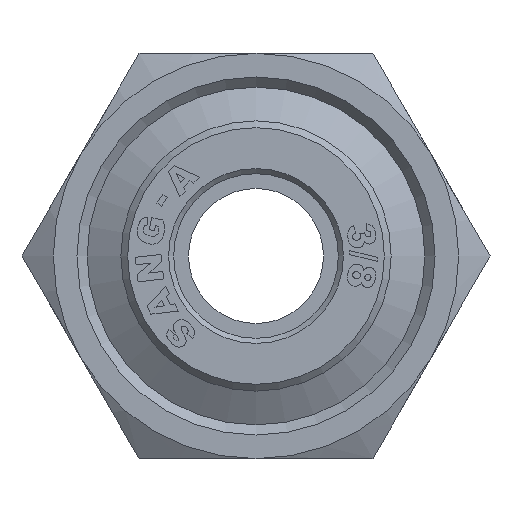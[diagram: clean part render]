
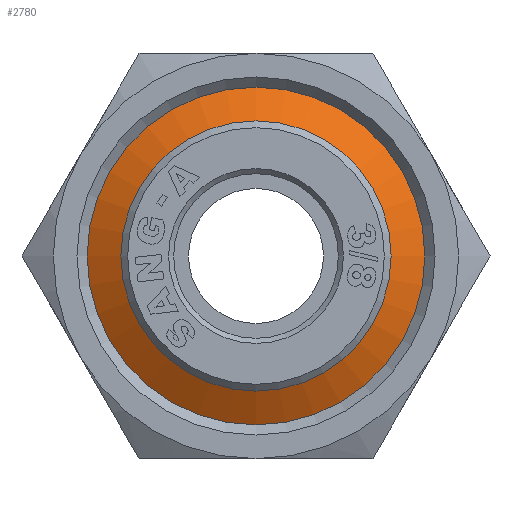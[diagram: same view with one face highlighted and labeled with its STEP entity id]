
A CAD part, left-side view. The second image highlights one B-rep face of the part: STEP entity #2780.
In plain terms, the highlighted conical face has half-angle 60 degrees and reference radius 8.875 mm.
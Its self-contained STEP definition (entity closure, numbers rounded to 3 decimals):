
#2746=CARTESIAN_POINT('',(2.5,7.75,0.0));
#2747=VERTEX_POINT('',#2746);
#2748=CARTESIAN_POINT('',(2.5,0.,0.0));
#2749=DIRECTION('',(1.0,0.0,0.0));
#2750=DIRECTION('',(0.0,1.0,0.0));
#2751=AXIS2_PLACEMENT_3D('',#2748,#2749,#2750);
#2752=CIRCLE('',#2751,7.75);
#2753=EDGE_CURVE('',#2747,#2747,#2752,.T.);
#2761=CARTESIAN_POINT('',(3.15,0.,0.0));
#2762=DIRECTION('',(1.0,0.,0.0));
#2763=DIRECTION('',(0.0,1.0,0.0));
#2764=AXIS2_PLACEMENT_3D('',#2761,#2762,#2763);
#2765=CONICAL_SURFACE('',#2764,8.875,60.);
#2766=CARTESIAN_POINT('',(3.799,10.,0.0));
#2767=VERTEX_POINT('',#2766);
#2768=CARTESIAN_POINT('',(3.799,0.,0.0));
#2769=DIRECTION('',(1.0,0.0,0.0));
#2770=DIRECTION('',(0.0,1.0,0.0));
#2771=AXIS2_PLACEMENT_3D('',#2768,#2769,#2770);
#2772=CIRCLE('',#2771,10.);
#2773=EDGE_CURVE('',#2767,#2767,#2772,.T.);
#2774=ORIENTED_EDGE('',*,*,#2773,.F.);
#2775=EDGE_LOOP('',(#2774));
#2776=FACE_OUTER_BOUND('',#2775,.T.);
#2777=ORIENTED_EDGE('',*,*,#2753,.T.);
#2778=EDGE_LOOP('',(#2777));
#2779=FACE_BOUND('',#2778,.T.);
#2780=ADVANCED_FACE('',(#2776,#2779),#2765,.T.);
